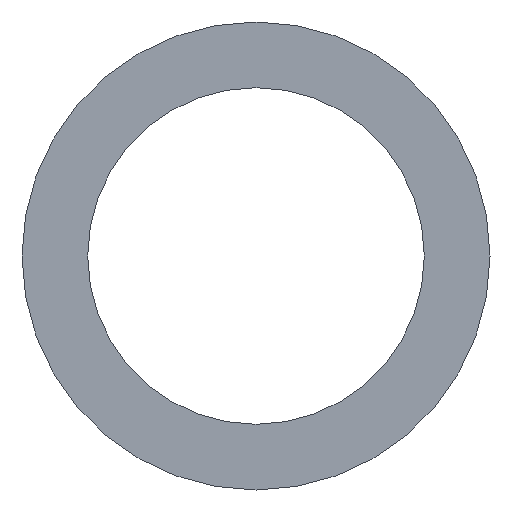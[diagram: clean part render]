
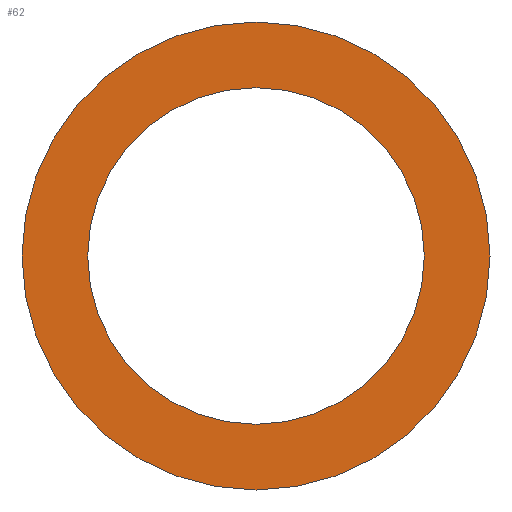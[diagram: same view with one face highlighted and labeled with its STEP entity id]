
A CAD part, front view. The second image highlights one B-rep face of the part: STEP entity #62.
In plain terms, the highlighted planar face has unit normal (0, -1, 0).
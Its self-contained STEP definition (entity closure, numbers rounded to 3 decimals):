
#20=PLANE('',#83);
#26=ORIENTED_EDGE('',*,*,#30,.T.);
#27=ORIENTED_EDGE('',*,*,#32,.F.);
#30=EDGE_CURVE('',#34,#34,#38,.T.);
#32=EDGE_CURVE('',#36,#36,#40,.T.);
#34=VERTEX_POINT('',#106);
#36=VERTEX_POINT('',#111);
#38=CIRCLE('',#78,157.5);
#40=CIRCLE('',#81,219.);
#46=EDGE_LOOP('',(#26));
#47=EDGE_LOOP('',(#27));
#54=FACE_BOUND('',#46,.T.);
#55=FACE_BOUND('',#47,.T.);
#62=ADVANCED_FACE('',(#54,#55),#20,.F.);
#78=AXIS2_PLACEMENT_3D('',#105,#89,#90);
#81=AXIS2_PLACEMENT_3D('',#110,#95,#96);
#83=AXIS2_PLACEMENT_3D('',#114,#99,#100);
#89=DIRECTION('',(0.,1.,0.));
#90=DIRECTION('',(1.,0.,0.));
#95=DIRECTION('',(0.,1.,0.));
#96=DIRECTION('',(1.,0.,0.));
#99=DIRECTION('',(0.,1.,0.));
#100=DIRECTION('',(0.,0.,1.));
#105=CARTESIAN_POINT('',(0.,-1.5,0.));
#106=CARTESIAN_POINT('',(157.5,-1.5,0.));
#110=CARTESIAN_POINT('',(0.,-1.5,0.));
#111=CARTESIAN_POINT('',(219.,-1.5,0.));
#114=CARTESIAN_POINT('',(0.,-1.5,0.));
